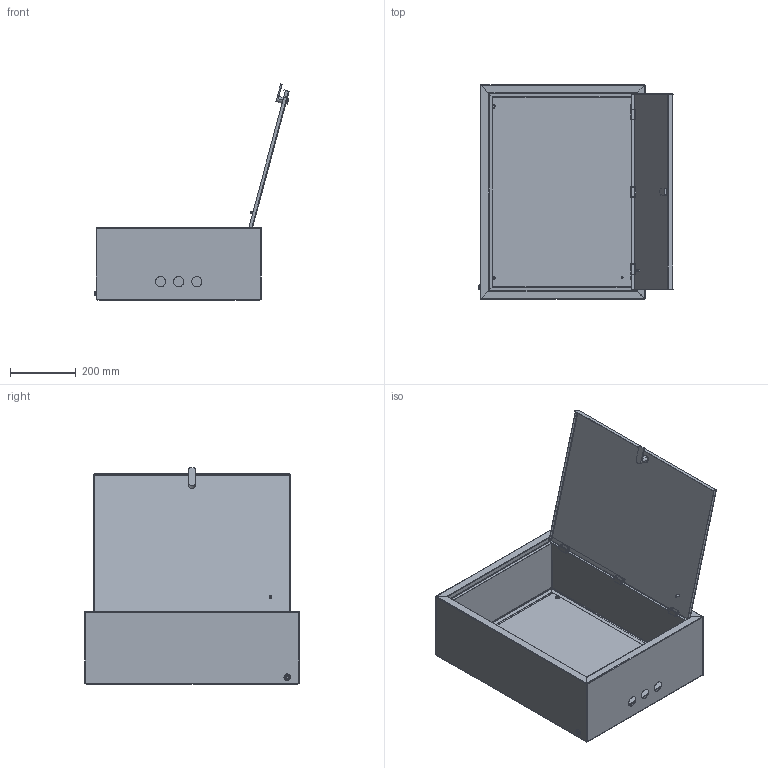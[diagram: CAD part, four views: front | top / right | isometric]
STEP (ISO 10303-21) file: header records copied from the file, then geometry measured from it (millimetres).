
FILE_DESCRIPTION (( 'STEP AP214' ), '1' );
FILE_NAME ('ﾙﾌﾏ-03_IP31.STEP', '2020-03-18T09:19:29', ( '' ), ( '' ), 'SwSTEP 2.0', 'SolidWorks 2018', '' );
FILE_SCHEMA (( 'AUTOMOTIVE_DESIGN' ));
Length unit declared in the file: millimetre
Products named in the file (12): Êîðïóñ_Ëåâûé03; ч斁熿P31; ﾙﾌﾏ-03_IP31; Ïåòëÿ_Êîðïóñà; ÄâåðüÑÏåòëÿìè; 暑痫篑_橡噔03; Çàäíÿÿ_Ïàíåëü03; Ãàéêà_Ì8; 沓艜_眈翴錪03; Ïåòëÿ_Äâåðè; ﾄ粢03; Ãàéêà_Ì6
Assembly tree (18 placements, depth 3):
  ﾙﾌﾏ-03_IP31
    Êîðïóñ_Ëåâûé03
    暑痫篑_橡噔03
    Çàäíÿÿ_Ïàíåëü03
    Ïåòëÿ_Êîðïóñà  x3
    ÄâåðüÑÏåòëÿìè
      ﾄ粢03
      Ïåòëÿ_Äâåðè  x3
    ч斁熿P31
    沓艜_眈翴錪03
    Ãàéêà_Ì6  x4
    Ãàéêà_Ì8
Bounding box: 588.75 x 650 x 656.33 mm (x, y, z)
Volume: 1599730.8 mm3; surface area: 3072545.3 mm2
Topology: 17 solids, 17 shells, 660 faces, 1486 edges, 872 vertices
Faces by surface type: plane 369, cylinder 199, cone 52, bspline 36, torus 4
Entity records: 15406 total; most frequent: CARTESIAN_POINT 4366, DIRECTION 2124, ORIENTED_EDGE 2100, EDGE_CURVE 1050, AXIS2_PLACEMENT_3D 714, LINE 696, VECTOR 696, VERTEX_POINT 612
